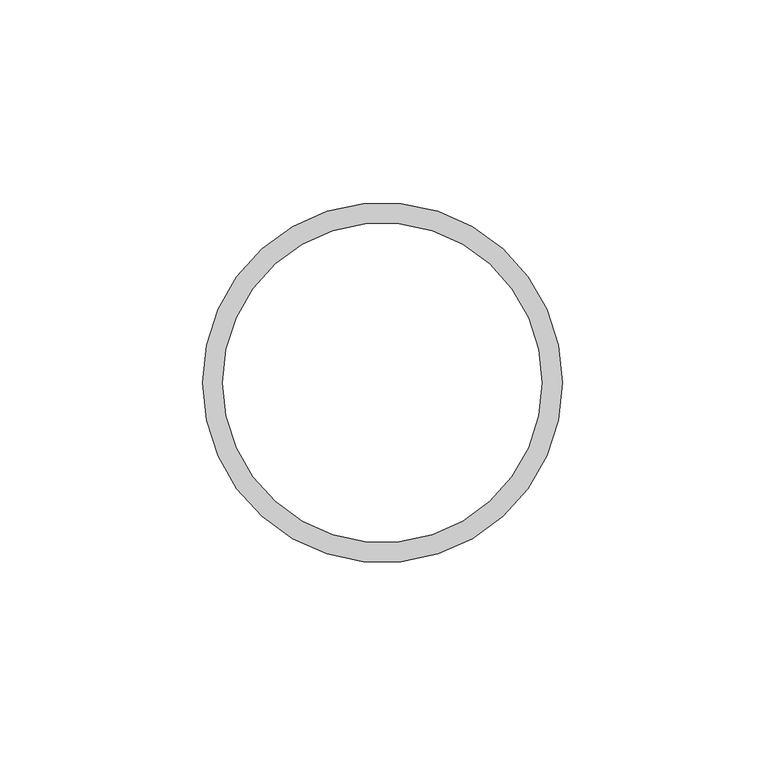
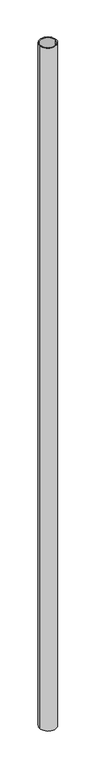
"""IFC4 building model written with IfcOpenShell, lengths in millimetres: column geometry, NLRS_28_SC_TLB_kolom buis_generiek_ISR : ø88.9x5 ."""

from ifc_helpers import new_model, si_unit, point, frame, origin, origin_2d, place, context, project, spatial, circle_curve, trimmed, segment, composite_curve, outline, extrude, source, transform, mapped, element, save


def column_1d1b7c36(model_context):
    return source(origin(), model_context, "Body", "SweptSolid", [
        extrude(outline(composite_curve([segment(trimmed(circle_curve(origin_2d(), 44.45), [point((44.45, 0.0))], [point((-44.45, 0.0))], False, "CARTESIAN"), True, "CONTINUOUS"), segment(trimmed(circle_curve(origin_2d(), 44.45), [point((-44.45, 0.0))], [point((44.45, 0.0))], False, "CARTESIAN"), True, "CONTINUOUS")], self_intersect=False), holes=[composite_curve([segment(trimmed(circle_curve(origin_2d(), 39.45), [point((39.45, 0.0))], [point((-39.45, 0.0))], True, "CARTESIAN"), True, "CONTINUOUS"), segment(trimmed(circle_curve(origin_2d(), 39.45), [point((-39.45, 0.0))], [point((39.45, 0.0))], True, "CARTESIAN"), True, "CONTINUOUS")], self_intersect=False)]), frame((0.0, 0.0, 3500.0), z_axis=(0.0, 0.0, 1.0), x_axis=(1.0, 0.0, 0.0)), (0.0, 0.0, 1.0), 3800.0),
    ])


if __name__ == "__main__":
    model = new_model("IFC4")
    model_context = context("Model", 3, world=origin())
    ifc_project = project(units=[si_unit("LENGTHUNIT", "METRE", prefix="MILLI")], contexts=[model_context])
    site = spatial("IfcSite", under=ifc_project)
    building = spatial("IfcBuilding", under=site)
    placement = place(None, origin())
    column_shape = column_1d1b7c36(model_context)
    element("IfcColumn", 1, ObjectType="NLRS_28_SC_TLB_kolom buis_generiek_ISR : ø88.9x5 ", at=placement, inside=building, context=model_context, shape_type="MappedRepresentation", body=[
        mapped(column_shape, transform((0.0, 0.0, 0.0), x_axis=(1.0, 0.0, 0.0), y_axis=(0.0, 1.0, 0.0), z_axis=(0.0, 0.0, 1.0))),
    ])
    save(model, "model.ifc")
